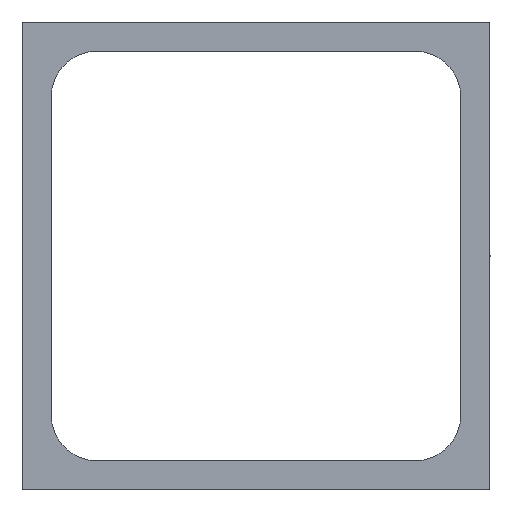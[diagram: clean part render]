
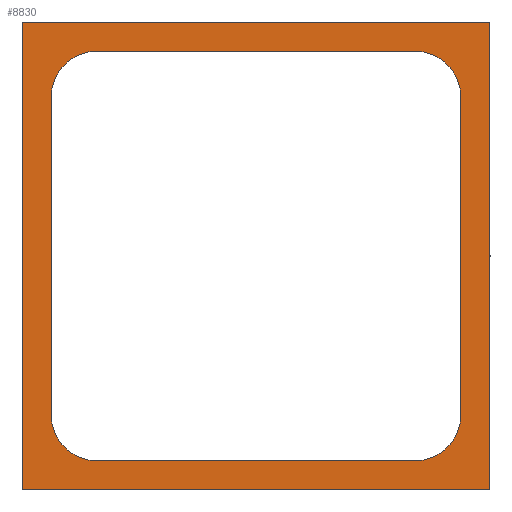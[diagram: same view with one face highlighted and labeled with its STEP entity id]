
A CAD part, front view. The second image highlights one B-rep face of the part: STEP entity #8830.
In plain terms, the highlighted planar face has unit normal (0, -1, 0).
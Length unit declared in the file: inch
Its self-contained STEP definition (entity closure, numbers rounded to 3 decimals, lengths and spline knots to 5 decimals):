
#764=FACE_BOUND('',#2292,.T.);
#774=PLANE('',#9983);
#1160=FACE_OUTER_BOUND('',#2291,.T.);
#2291=EDGE_LOOP('',(#8057,#8058,#8059,#8060));
#2292=EDGE_LOOP('',(#8061,#8062,#8063,#8064,#8065,#8066,#8067,#8068));
#2471=LINE('',#13736,#2871);
#2475=LINE('',#13934,#2875);
#2479=LINE('',#13956,#2879);
#2484=LINE('',#14154,#2884);
#2681=LINE('',#14952,#3081);
#2685=LINE('',#14960,#3085);
#2688=LINE('',#14966,#3088);
#2691=LINE('',#14971,#3091);
#2871=VECTOR('',#11231,0.3937);
#2875=VECTOR('',#11429,0.3937);
#2879=VECTOR('',#11451,0.3937);
#2884=VECTOR('',#11650,0.3937);
#3081=VECTOR('',#12643,0.3937);
#3085=VECTOR('',#12649,0.3937);
#3088=VECTOR('',#12654,0.3937);
#3091=VECTOR('',#12659,0.3937);
#3445=CIRCLE('',#9375,0.0975);
#3540=CIRCLE('',#9472,0.0975);
#3547=CIRCLE('',#9481,0.0975);
#3642=CIRCLE('',#9578,0.0975);
#4197=VERTEX_POINT('',#13726);
#4198=VERTEX_POINT('',#13727);
#4201=VERTEX_POINT('',#13735);
#4296=VERTEX_POINT('',#13927);
#4298=VERTEX_POINT('',#13933);
#4305=VERTEX_POINT('',#13949);
#4307=VERTEX_POINT('',#13955);
#4402=VERTEX_POINT('',#14147);
#4605=VERTEX_POINT('',#14950);
#4606=VERTEX_POINT('',#14951);
#4609=VERTEX_POINT('',#14959);
#4611=VERTEX_POINT('',#14965);
#5141=EDGE_CURVE('',#4197,#4198,#3445,.T.);
#5145=EDGE_CURVE('',#4198,#4201,#2471,.T.);
#5241=EDGE_CURVE('',#4201,#4296,#3540,.T.);
#5244=EDGE_CURVE('',#4296,#4298,#2475,.T.);
#5252=EDGE_CURVE('',#4298,#4305,#3547,.T.);
#5255=EDGE_CURVE('',#4305,#4307,#2479,.T.);
#5351=EDGE_CURVE('',#4307,#4402,#3642,.T.);
#5355=EDGE_CURVE('',#4402,#4197,#2484,.T.);
#5753=EDGE_CURVE('',#4605,#4606,#2681,.T.);
#5757=EDGE_CURVE('',#4609,#4605,#2685,.T.);
#5760=EDGE_CURVE('',#4611,#4609,#2688,.T.);
#5763=EDGE_CURVE('',#4606,#4611,#2691,.T.);
#8057=ORIENTED_EDGE('',*,*,#5763,.F.);
#8058=ORIENTED_EDGE('',*,*,#5753,.F.);
#8059=ORIENTED_EDGE('',*,*,#5757,.F.);
#8060=ORIENTED_EDGE('',*,*,#5760,.F.);
#8061=ORIENTED_EDGE('',*,*,#5141,.F.);
#8062=ORIENTED_EDGE('',*,*,#5355,.F.);
#8063=ORIENTED_EDGE('',*,*,#5351,.F.);
#8064=ORIENTED_EDGE('',*,*,#5255,.F.);
#8065=ORIENTED_EDGE('',*,*,#5252,.F.);
#8066=ORIENTED_EDGE('',*,*,#5244,.F.);
#8067=ORIENTED_EDGE('',*,*,#5241,.F.);
#8068=ORIENTED_EDGE('',*,*,#5145,.F.);
#8830=ADVANCED_FACE('',(#1160,#764),#774,.F.);
#9375=AXIS2_PLACEMENT_3D('',#13728,#11223,#11224);
#9472=AXIS2_PLACEMENT_3D('',#13928,#11422,#11423);
#9481=AXIS2_PLACEMENT_3D('',#13950,#11444,#11445);
#9578=AXIS2_PLACEMENT_3D('',#14148,#11642,#11643);
#9983=AXIS2_PLACEMENT_3D('',#14974,#12663,#12664);
#11223=DIRECTION('center_axis',(0.,-1.,0.));
#11224=DIRECTION('ref_axis',(-0.707,0.,-0.707));
#11231=DIRECTION('',(1.,0.,0.));
#11422=DIRECTION('center_axis',(0.,-1.,0.));
#11423=DIRECTION('ref_axis',(0.707,0.,-0.707));
#11429=DIRECTION('',(0.,0.,1.));
#11444=DIRECTION('center_axis',(0.,-1.,0.));
#11445=DIRECTION('ref_axis',(0.707,0.,0.707));
#11451=DIRECTION('',(-1.,0.,0.));
#11642=DIRECTION('center_axis',(0.,-1.,0.));
#11643=DIRECTION('ref_axis',(-0.707,0.,0.707));
#11650=DIRECTION('',(0.,0.,-1.));
#12643=DIRECTION('',(1.,0.,0.));
#12649=DIRECTION('',(0.,0.,1.));
#12654=DIRECTION('',(-1.,0.,0.));
#12659=DIRECTION('',(0.,0.,-1.));
#12663=DIRECTION('center_axis',(0.,1.,0.));
#12664=DIRECTION('ref_axis',(1.,0.,0.));
#13726=CARTESIAN_POINT('',(-0.4375,0.,-0.34));
#13727=CARTESIAN_POINT('',(-0.34,0.,-0.4375));
#13728=CARTESIAN_POINT('Origin',(-0.34,0.,-0.34));
#13735=CARTESIAN_POINT('',(0.34,0.,-0.4375));
#13736=CARTESIAN_POINT('',(0.4375,0.,-0.4375));
#13927=CARTESIAN_POINT('',(0.4375,0.,-0.34));
#13928=CARTESIAN_POINT('Origin',(0.34,0.,-0.34));
#13933=CARTESIAN_POINT('',(0.4375,0.,0.34));
#13934=CARTESIAN_POINT('',(0.4375,0.,0.4375));
#13949=CARTESIAN_POINT('',(0.34,0.,0.4375));
#13950=CARTESIAN_POINT('Origin',(0.34,0.,0.34));
#13955=CARTESIAN_POINT('',(-0.34,0.,0.4375));
#13956=CARTESIAN_POINT('',(-0.4375,0.,0.4375));
#14147=CARTESIAN_POINT('',(-0.4375,0.,0.34));
#14148=CARTESIAN_POINT('Origin',(-0.34,0.,0.34));
#14154=CARTESIAN_POINT('',(-0.4375,0.,-0.4375));
#14950=CARTESIAN_POINT('',(-0.5,0.,0.5));
#14951=CARTESIAN_POINT('',(0.5,0.,0.5));
#14952=CARTESIAN_POINT('',(-0.5,0.,0.5));
#14959=CARTESIAN_POINT('',(-0.5,0.,-0.5));
#14960=CARTESIAN_POINT('',(-0.5,0.,-0.5));
#14965=CARTESIAN_POINT('',(0.5,0.,-0.5));
#14966=CARTESIAN_POINT('',(0.5,0.,-0.5));
#14971=CARTESIAN_POINT('',(0.5,0.,0.5));
#14974=CARTESIAN_POINT('Origin',(0.,0.,0.));
